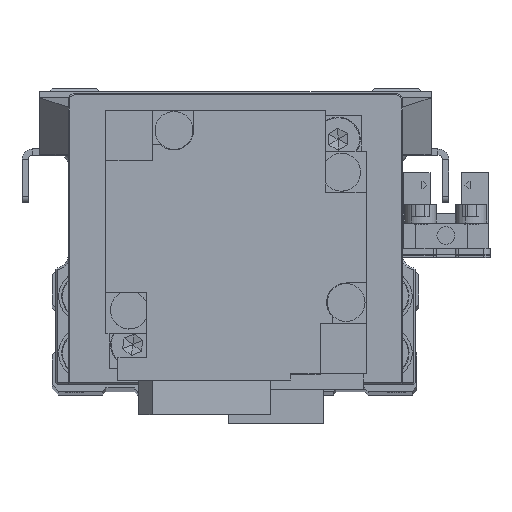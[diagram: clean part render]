
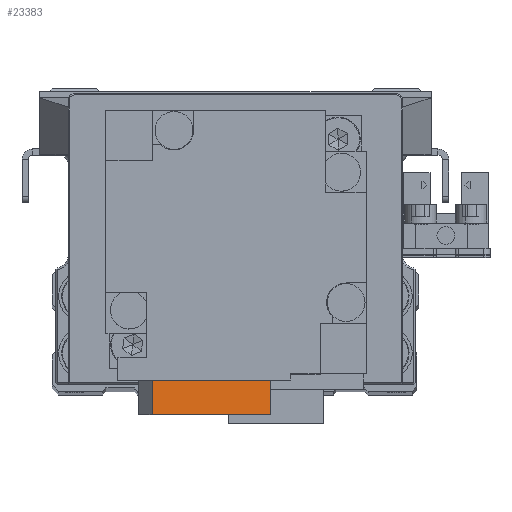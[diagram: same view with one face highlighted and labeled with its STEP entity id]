
A CAD part, top view. The second image highlights one B-rep face of the part: STEP entity #23383.
In plain terms, the highlighted planar face has unit normal (0.156, 0, 0.988) as drawn and (-0.156, 0, -0.988) by its records, which use the part's own axes.
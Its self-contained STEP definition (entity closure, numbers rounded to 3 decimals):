
#386 = FACE_OUTER_BOUND ( 'NONE', #30784, .T. ) ;
#933 = ORIENTED_EDGE ( 'NONE', *, *, #37458, .F. ) ;
#955 = CARTESIAN_POINT ( 'NONE',  ( -5.583, -22., -76.124 ) ) ;
#2736 = LINE ( 'NONE', #14549, #12671 ) ;
#3263 = ORIENTED_EDGE ( 'NONE', *, *, #28867, .F. ) ;
#5452 = DIRECTION ( 'NONE',  ( 0., 1., 0. ) ) ;
#6242 = AXIS2_PLACEMENT_3D ( 'NONE', #23947, #35684, #9285 ) ;
#7608 = LINE ( 'NONE', #19388, #14906 ) ;
#8585 = VECTOR ( 'NONE', #5452, 1000. ) ;
#9285 = DIRECTION ( 'NONE',  ( 0.988, 0., -0.156 ) ) ;
#9460 = VERTEX_POINT ( 'NONE', #21735 ) ;
#11607 = ORIENTED_EDGE ( 'NONE', *, *, #26368, .F. ) ;
#12192 = PLANE ( 'NONE',  #6242 ) ;
#12671 = VECTOR ( 'NONE', #26302, 1000. ) ;
#12759 = DIRECTION ( 'NONE',  ( 0.988, 0., -0.156 ) ) ;
#14080 = VERTEX_POINT ( 'NONE', #35912 ) ;
#14549 = CARTESIAN_POINT ( 'NONE',  ( -5.583, -24.75, -76.124 ) ) ;
#14906 = VECTOR ( 'NONE', #31153, 1000. ) ;
#17078 = CARTESIAN_POINT ( 'NONE',  ( -5.583, -22., -76.124 ) ) ;
#17386 = VERTEX_POINT ( 'NONE', #17078 ) ;
#19388 = CARTESIAN_POINT ( 'NONE',  ( 3.8, -27.5, -77.61 ) ) ;
#20114 = LINE ( 'NONE', #31876, #8585 ) ;
#21735 = CARTESIAN_POINT ( 'NONE',  ( 13.183, -22., -79.096 ) ) ;
#22044 = VECTOR ( 'NONE', #12759, 1000. ) ;
#23383 = ADVANCED_FACE ( 'NONE', ( #386 ), #12192, .F. ) ;
#23947 = CARTESIAN_POINT ( 'NONE',  ( 3.8, -24.75, -77.61 ) ) ;
#24758 = ORIENTED_EDGE ( 'NONE', *, *, #31016, .T. ) ;
#26302 = DIRECTION ( 'NONE',  ( 0., -1., 0. ) ) ;
#26368 = EDGE_CURVE ( 'NONE', #29602, #9460, #20114, .T. ) ;
#27410 = LINE ( 'NONE', #955, #22044 ) ;
#28867 = EDGE_CURVE ( 'NONE', #14080, #29602, #7608, .T. ) ;
#29602 = VERTEX_POINT ( 'NONE', #29907 ) ;
#29907 = CARTESIAN_POINT ( 'NONE',  ( 13.183, -27.5, -79.096 ) ) ;
#30784 = EDGE_LOOP ( 'NONE', ( #11607, #3263, #933, #24758 ) ) ;
#31016 = EDGE_CURVE ( 'NONE', #17386, #9460, #27410, .T. ) ;
#31153 = DIRECTION ( 'NONE',  ( 0.988, 0., -0.156 ) ) ;
#31876 = CARTESIAN_POINT ( 'NONE',  ( 13.183, -24.75, -79.096 ) ) ;
#35684 = DIRECTION ( 'NONE',  ( 0.156, 0., 0.988 ) ) ;
#35912 = CARTESIAN_POINT ( 'NONE',  ( -5.583, -27.5, -76.124 ) ) ;
#37458 = EDGE_CURVE ( 'NONE', #17386, #14080, #2736, .T. ) ;
